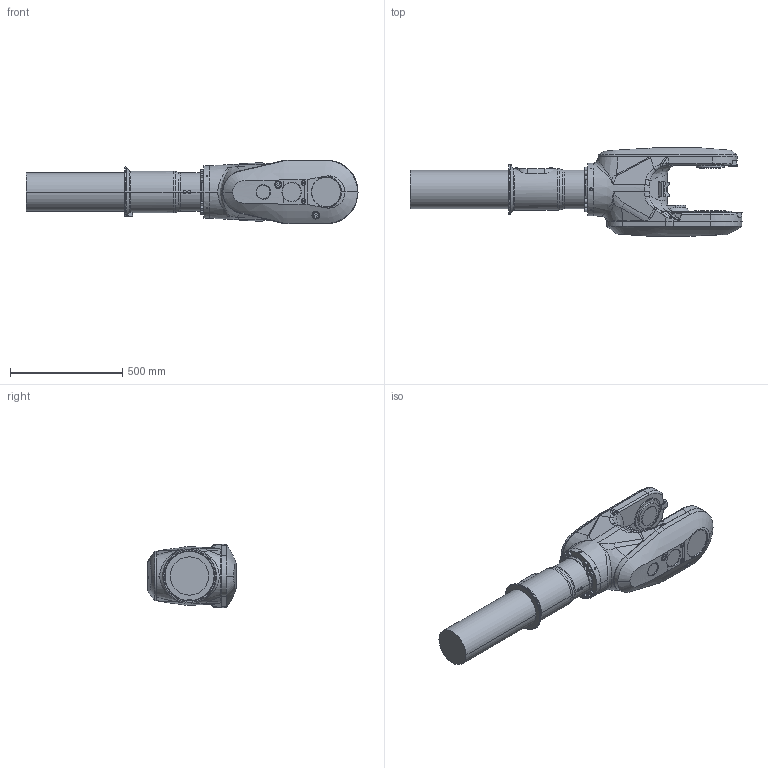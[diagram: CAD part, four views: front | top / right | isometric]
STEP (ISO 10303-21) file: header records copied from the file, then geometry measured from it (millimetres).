
FILE_DESCRIPTION (( 'STEP AP214' ), '1' );
FILE_NAME ('IRB6730S_All-310_OC_00_LINK04_CAD.step', '2026-05-26T10:37:59', ( '' ), ( '' ), 'SwSTEP 2.0', 'SolidWorks 2024', '' );
FILE_SCHEMA (( 'AUTOMOTIVE_DESIGN' ));
Length unit declared in the file: millimetre
Products named in the file (1): IRB6730S_All-310_OC_00_LINK04_CAD
Bounding box: 1477.5 x 395.55 x 284 mm (x, y, z)
Volume: 57054687.9 mm3; surface area: 1380020.5 mm2
Topology: 1 solids, 4 shells, 727 faces, 1803 edges, 1126 vertices
Faces by surface type: plane 297, cylinder 179, cone 122, bspline 96, torus 33
Entity records: 42318 total; most frequent: CARTESIAN_POINT 18327, ORIENTED_EDGE 3558, DIRECTION 2986, EDGE_CURVE 1779, VERTEX_POINT 1126, AXIS2_PLACEMENT_3D 1114, EDGE_LOOP 797, LINE 758
